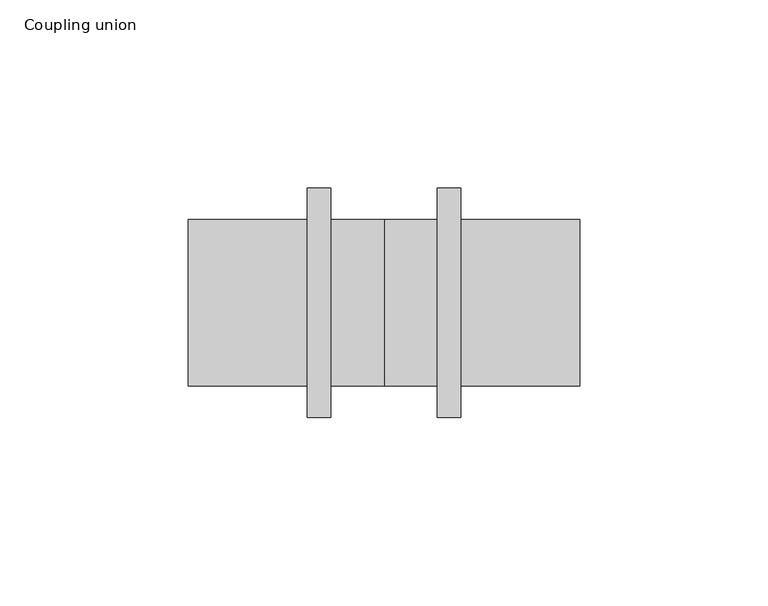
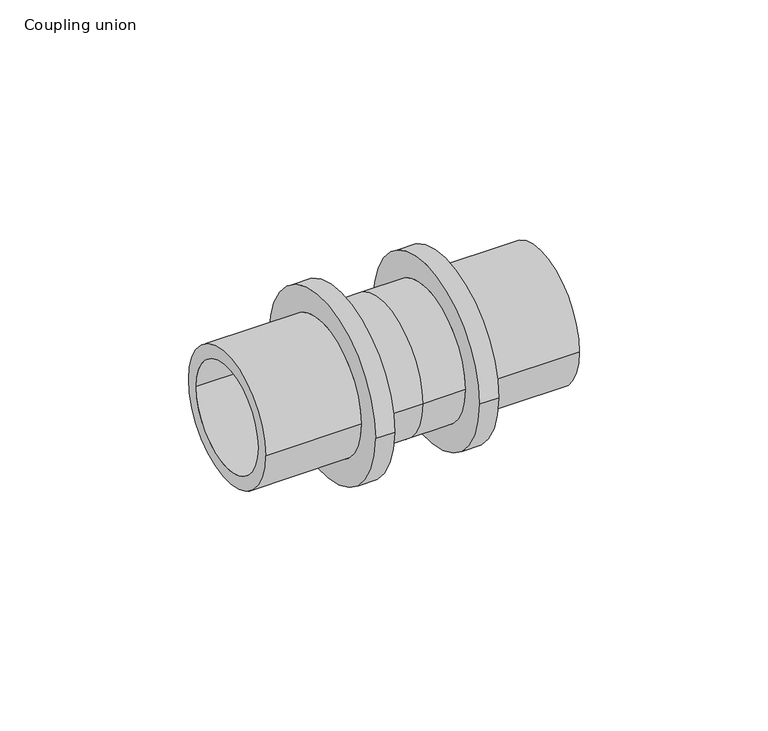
"""IFC4 building model written with IfcOpenShell, lengths in millimetres: pipe fitting geometry, Coupling union : C EQ SDR11 LX."""

import ifcopenshell
import ifcopenshell.guid

model = None  # the IFC model being written
_history = None  # IfcOwnerHistory: only IFC2X3 demands one
_inside = {}  # id of a spatial element -> (the spatial element, [elements in it])
_under = {}  # id of a project, library or spatial element -> (it, [spatial elements below it])
_declared = {}  # id of a project -> (the project, [libraries it declares])
_typed = {}  # id of a type object -> (the type object, [elements of that type])
_made_of = {}  # id of a material, layer set ... -> (it, [elements and type objects made of it])


def new_model(schema):
    """Start an empty IFC model of exactly this schema.

    Asked for "IFC4X3", IfcOpenShell would pick the latest addendum, in which some entities
    have other attributes; the version numbers below select the first issue.
    IFC2X3 requires an IfcOwnerHistory on every rooted entity: one is made here for all.
    """
    global model, _history
    if schema == "IFC4X3":
        model = ifcopenshell.file(schema_version=(4, 3, 0, 0))
    else:
        model = ifcopenshell.file(schema=schema)
    _inside.clear()
    _under.clear()
    _declared.clear()
    _typed.clear()
    _made_of.clear()
    _history = None
    if model.schema == "IFC2X3":
        org = make("IfcOrganization", Name="unknown")
        user = make(
            "IfcPersonAndOrganization",
            ThePerson=make("IfcPerson", FamilyName="unknown"),
            TheOrganization=org,
        )
        app = make(
            "IfcApplication",
            ApplicationDeveloper=org,
            Version="unknown",
            ApplicationFullName="unknown",
            ApplicationIdentifier="unknown",
        )
        _history = make(
            "IfcOwnerHistory",
            OwningUser=user,
            OwningApplication=app,
            ChangeAction="ADDED",
            CreationDate=0,
        )
    return model


def make(cls, **values):
    """One entity of the class cls with the attributes given. An attribute that is None is left unset."""
    return model.create_entity(
        cls, **{name: value for name, value in values.items() if value is not None}
    )


def rooted(cls, **values):
    """An entity with a GlobalId (a new one), such as an element, a storey or a relation."""
    return make(cls, GlobalId=ifcopenshell.guid.new(), OwnerHistory=_history, **values)


def si_unit(unit_type, name, prefix=None):
    """IfcSIUnit, for example si_unit("LENGTHUNIT", "METRE", prefix="MILLI")."""
    return make("IfcSIUnit", UnitType=unit_type, Prefix=prefix, Name=name)


def assignment(units):
    """IfcUnitAssignment: the units of a project."""
    return None if units is None else make("IfcUnitAssignment", Units=units)


def point(xyz):
    """IfcCartesianPoint."""
    return None if xyz is None else make("IfcCartesianPoint", Coordinates=xyz)


def direction(xyz):
    """IfcDirection."""
    return None if xyz is None else make("IfcDirection", DirectionRatios=xyz)


def frame(location, z_axis=None, x_axis=None):
    """IfcAxis2Placement3D, a coordinate frame: its origin and axes. An axis left out is left unset."""
    return make(
        "IfcAxis2Placement3D",
        Location=point(location),
        Axis=direction(z_axis),
        RefDirection=direction(x_axis),
    )


def origin():
    """The frame at (0, 0, 0) with its axes left unset."""
    return frame((0.0, 0.0, 0.0))


def place(relative_to, where):
    """IfcLocalPlacement: puts the frame where relative to a parent placement (None: the world)."""
    return make(
        "IfcLocalPlacement", PlacementRelTo=relative_to, RelativePlacement=where
    )


def context(
    kind, dimensions, precision=None, world=None, true_north=None, identifier=None
):
    """IfcGeometricRepresentationContext, for example the 3D "Model" context."""
    return make(
        "IfcGeometricRepresentationContext",
        ContextIdentifier=identifier,
        ContextType=kind,
        CoordinateSpaceDimension=dimensions,
        Precision=precision,
        WorldCoordinateSystem=world,
        TrueNorth=true_north,
    )


def project(units=None, contexts=None):
    """IfcProject with its units and contexts."""
    return rooted(
        "IfcProject",
        Name="project",
        RepresentationContexts=contexts,
        UnitsInContext=assignment(units),
    )


def spatial(cls, under=None, at=None, **own):
    """A site, building, storey or space (cls), placed at a placement, below another one or the project."""
    s = rooted(cls, ObjectPlacement=at, **own)
    if under is not None:
        _under.setdefault(under.id(), (under, []))[1].append(s)
    return s


def polyline(points):
    """IfcPolyline through the points."""
    return make("IfcPolyline", Points=[point(p) for p in points])


def circle_curve(where, radius):
    """IfcCircle in the frame where."""
    return make("IfcCircle", Position=where, Radius=radius)


def shape(context_of_items, identifier, shape_type, items):
    """IfcShapeRepresentation: the items that make up one representation, for example the "Body"."""
    return make(
        "IfcShapeRepresentation",
        ContextOfItems=context_of_items,
        RepresentationIdentifier=identifier,
        RepresentationType=shape_type,
        Items=items,
    )


def source(mapping_origin, context_of_items, identifier, shape_type, items):
    """IfcRepresentationMap: a shape defined once, which mapped items show again and again."""
    return make(
        "IfcRepresentationMap",
        MappingOrigin=mapping_origin,
        MappedRepresentation=shape(context_of_items, identifier, shape_type, items),
    )


def transform(
    local_origin,
    x_axis=None,
    y_axis=None,
    z_axis=None,
    scale=None,
    scale2=None,
    scale3=None,
    uniform=True,
):
    """IfcCartesianTransformationOperator3D, or its non-uniform kind. x_axis, y_axis, z_axis: its Axis1, 2, 3."""
    if uniform:
        return make(
            "IfcCartesianTransformationOperator3D",
            Axis1=direction(x_axis),
            Axis2=direction(y_axis),
            LocalOrigin=point(local_origin),
            Scale=scale,
            Axis3=direction(z_axis),
        )
    return make(
        "IfcCartesianTransformationOperator3DnonUniform",
        Axis1=direction(x_axis),
        Axis2=direction(y_axis),
        LocalOrigin=point(local_origin),
        Scale=scale,
        Axis3=direction(z_axis),
        Scale2=scale2,
        Scale3=scale3,
    )


def mapped(mapping_source, mapping_target):
    """IfcMappedItem: shows the shape of a source again, moved by a transform."""
    return make(
        "IfcMappedItem", MappingSource=mapping_source, MappingTarget=mapping_target
    )


def made_of(thing, what):
    """Note that an element or type object is made of a material, layer set ...; save() writes the relation."""
    if what is not None:
        _made_of.setdefault(what.id(), (what, []))[1].append(thing)
    return thing


def element(
    cls,
    number,
    at=None,
    inside=None,
    cuts=None,
    type_object=None,
    material=None,
    context=None,
    identifier="Body",
    shape_type=None,
    held_by="IfcProductDefinitionShape",
    body=None,
    shapes=None,
    **own,
):
    """One element of the class cls, such as IfcWall. Its Tag is "e" and its number.

    at: its placement. inside: the storey or other place that contains it. cuts: it is an
    opening in that element (IfcRelVoidsElement). A single representation is given by context,
    identifier, shape_type and body (its items); several are given by shapes. held_by: the class
    of the entity that holds the representations. save() writes the other relations.
    """
    e = rooted(cls, Tag="e%d" % number, ObjectPlacement=at, **own)
    if body is not None:
        shapes = [shape(context, identifier, shape_type, body)]
    if shapes is not None:
        e.Representation = make(held_by, Representations=shapes)
    if inside is not None:
        _inside.setdefault(inside.id(), (inside, []))[1].append(e)
    if cuts is not None:
        rooted(
            "IfcRelVoidsElement", RelatingBuildingElement=cuts, RelatedOpeningElement=e
        )
    if type_object is not None:
        _typed.setdefault(type_object.id(), (type_object, []))[1].append(e)
    return made_of(e, material)


def aggregate(whole, parts):
    """IfcRelAggregates: a whole, such as a stair, and the parts it consists of."""
    return rooted("IfcRelAggregates", RelatingObject=whole, RelatedObjects=parts)


def save(model, path):
    """Write the relations noted so far, then the file.

    IfcRelAggregates (storeys below a building ...), IfcRelContainedInSpatialStructure (elements
    in a storey), IfcRelDefinesByType, IfcRelAssociatesMaterial and IfcRelDeclares: one each for
    every whole, place, type object, material and project.
    """
    for whole, parts in _under.values():
        aggregate(whole, parts)
    for where, things in _inside.values():
        rooted(
            "IfcRelContainedInSpatialStructure",
            RelatedElements=things,
            RelatingStructure=where,
        )
    for kind, things in _typed.values():
        rooted("IfcRelDefinesByType", RelatedObjects=things, RelatingType=kind)
    for what, things in _made_of.values():
        rooted("IfcRelAssociatesMaterial", RelatedObjects=things, RelatingMaterial=what)
    for by, libraries in _declared.values():
        rooted("IfcRelDeclares", RelatingContext=by, RelatedDefinitions=libraries)
    model.write(path)


def plane_surface(at):
    """IfcPlane: the flat surface through the origin of the frame at, square to its z axis."""
    return make("IfcPlane", Position=at)


def cylinder_surface(at, radius):
    """IfcCylindricalSurface: all points at the distance radius from the z axis of the frame at."""
    return make("IfcCylindricalSurface", Position=at, Radius=radius)


def revolved_surface(curve, axis_point, axis_direction):
    """IfcSurfaceOfRevolution: the curve turned about the line through axis_point along axis_direction."""
    return make(
        "IfcSurfaceOfRevolution",
        SweptCurve=make("IfcArbitraryOpenProfileDef", ProfileType="CURVE", Curve=curve),
        AxisPosition=make("IfcAxis1Placement", Location=point(axis_point), Axis=direction(axis_direction)),
    )


def advanced_brep(points, edges, surfaces, faces):
    """IfcAdvancedBrep: a solid bounded by faces that lie on surfaces and meet in shared edges.

    An edge is (start, end): straight between two places in points (the first is 0);
    or (start, end, curve); or (start, end, curve, False) where it runs against its curve.
    A face is (place in surfaces, loops), or (place, loops, False) where it looks against
    its surface's normal. A loop lists edges by number (the first is 1), with a minus sign
    where the edge is run from its end to its start. The first loop is the outer one.
    """
    corners = [point(p) for p in points]
    vertices = [make("IfcVertexPoint", VertexGeometry=c) for c in corners]
    made = []
    for start, end, *more in edges:
        made.append(
            make(
                "IfcEdgeCurve",
                EdgeStart=vertices[start],
                EdgeEnd=vertices[end],
                EdgeGeometry=more[0] if more else make("IfcPolyline", Points=[corners[start], corners[end]]),
                SameSense=more[1] if len(more) > 1 else True,
            )
        )
    hull = []
    for where, loops, *sense in faces:
        bounds = []
        for j, loop in enumerate(loops):
            ring = [make("IfcOrientedEdge", EdgeElement=made[abs(k) - 1], Orientation=k > 0) for k in loop]
            bounds.append(
                make(
                    "IfcFaceOuterBound" if j == 0 else "IfcFaceBound",
                    Bound=make("IfcEdgeLoop", EdgeList=ring),
                    Orientation=True,
                )
            )
        hull.append(make("IfcAdvancedFace", Bounds=bounds, FaceSurface=surfaces[where], SameSense=sense[0] if sense else True))
    return make("IfcAdvancedBrep", Outer=make("IfcClosedShell", CfsFaces=hull))


def coupling_union_cbcc5ad7(model_context):
    return source(origin(), model_context, "Body", "AdvancedBrep", [
        advanced_brep(
        [(20.4, 30.5, 0.0), (20.4, -30.5, 0.0), (14.1, -30.5, 0.0), (14.1, 30.5, 0.0), (52.0, 22.15, 0.0), (52.0, -22.15, 0.0), (20.4, -22.15, 0.0), (20.4, 22.15, 0.0), (-52.0, 17.75, 0.0), (-52.0, -17.75, 0.0), (52.0, -17.75, 0.0), (52.0, 17.75, 0.0), (-20.4, 22.15, 0.0), (-20.4, -22.15, 0.0), (-52.0, -22.15, 0.0), (-52.0, 22.15, 0.0), (-14.1, 30.5, 0.0), (-14.1, -30.5, 0.0), (-20.4, -30.5, 0.0), (-20.4, 30.5, 0.0), (0.0, 22.15, 0.0), (0.0, -22.15, 0.0), (-14.1, -22.15, 0.0), (-14.1, 22.15, 0.0), (14.1, 22.15, 0.0), (14.1, -22.15, 0.0)],
        [
            (0, 1, circle_curve(frame((20.4, 0.0, 0.0), z_axis=(-1.0, 0.0, 0.0), x_axis=(0.0, -1.0, 0.0)), 30.5)),
            (1, 2),
            (2, 3, circle_curve(frame((14.1, 0.0, 0.0), z_axis=(1.0, 0.0, 0.0), x_axis=(0.0, -1.0, 0.0)), 30.5)),
            (3, 0),
            (4, 5, circle_curve(frame((52.0, 0.0, 0.0), z_axis=(-1.0, 0.0, 0.0), x_axis=(0.0, -1.0, 0.0)), 22.15)),
            (5, 6),
            (6, 7, circle_curve(frame((20.4, 0.0, 0.0), z_axis=(1.0, 0.0, 0.0), x_axis=(0.0, -1.0, 0.0)), 22.15)),
            (7, 4),
            (8, 9, circle_curve(frame((-52.0, 0.0, 0.0), z_axis=(-1.0, 0.0, 0.0), x_axis=(0.0, -1.0, 0.0)), 17.75)),
            (9, 10),
            (10, 11, circle_curve(frame((52.0, 0.0, 0.0), z_axis=(1.0, 0.0, 0.0), x_axis=(0.0, -1.0, 0.0)), 17.75)),
            (11, 8),
            (12, 13, circle_curve(frame((-20.4, 0.0, 0.0), z_axis=(-1.0, 0.0, 0.0), x_axis=(0.0, -1.0, 0.0)), 22.15)),
            (13, 14),
            (14, 15, circle_curve(frame((-52.0, 0.0, 0.0), z_axis=(1.0, 0.0, 0.0), x_axis=(0.0, -1.0, 0.0)), 22.15)),
            (15, 12),
            (16, 17, circle_curve(frame((-14.1, 0.0, 0.0), z_axis=(-1.0, 0.0, 0.0), x_axis=(0.0, -1.0, 0.0)), 30.5)),
            (17, 18),
            (18, 19, circle_curve(frame((-20.4, 0.0, 0.0), z_axis=(1.0, 0.0, 0.0), x_axis=(0.0, -1.0, 0.0)), 30.5)),
            (19, 16),
            (20, 21, circle_curve(frame((0.0, 0.0, 0.0), z_axis=(-1.0, 0.0, 0.0), x_axis=(0.0, -1.0, 0.0)), 22.15)),
            (21, 22),
            (22, 23, circle_curve(frame((-14.1, 0.0, 0.0), z_axis=(1.0, 0.0, 0.0), x_axis=(0.0, -1.0, 0.0)), 22.15)),
            (23, 20),
            (24, 25, circle_curve(frame((14.1, 0.0, 0.0), z_axis=(-1.0, 0.0, 0.0), x_axis=(0.0, -1.0, 0.0)), 22.15)),
            (25, 21),
            (20, 24),
            (1, 0, circle_curve(frame((20.4, 0.0, 0.0), z_axis=(-1.0, 0.0, 0.0), x_axis=(0.0, 1.0, 0.0)), 30.5)),
            (3, 2, circle_curve(frame((14.1, 0.0, 0.0), z_axis=(1.0, 0.0, 0.0), x_axis=(0.0, 1.0, 0.0)), 30.5)),
            (6, 7, circle_curve(frame((20.4, 0.0, 0.0), z_axis=(-1.0, 0.0, 0.0), x_axis=(0.0, 1.0, 0.0)), 22.15)),
            (5, 4, circle_curve(frame((52.0, 0.0, 0.0), z_axis=(-1.0, 0.0, 0.0), x_axis=(0.0, 1.0, 0.0)), 22.15)),
            (10, 11, circle_curve(frame((52.0, 0.0, 0.0), z_axis=(-1.0, 0.0, 0.0), x_axis=(0.0, 1.0, 0.0)), 17.75)),
            (9, 8, circle_curve(frame((-52.0, 0.0, 0.0), z_axis=(-1.0, 0.0, 0.0), x_axis=(0.0, 1.0, 0.0)), 17.75)),
            (14, 15, circle_curve(frame((-52.0, 0.0, 0.0), z_axis=(-1.0, 0.0, 0.0), x_axis=(0.0, 1.0, 0.0)), 22.15)),
            (13, 12, circle_curve(frame((-20.4, 0.0, 0.0), z_axis=(-1.0, 0.0, 0.0), x_axis=(0.0, 1.0, 0.0)), 22.15)),
            (18, 19, circle_curve(frame((-20.4, 0.0, 0.0), z_axis=(-1.0, 0.0, 0.0), x_axis=(0.0, 1.0, 0.0)), 30.5)),
            (17, 16, circle_curve(frame((-14.1, 0.0, 0.0), z_axis=(-1.0, 0.0, 0.0), x_axis=(0.0, 1.0, 0.0)), 30.5)),
            (22, 23, circle_curve(frame((-14.1, 0.0, 0.0), z_axis=(-1.0, 0.0, 0.0), x_axis=(0.0, 1.0, 0.0)), 22.15)),
            (21, 20, circle_curve(frame((0.0, 0.0, 0.0), z_axis=(-1.0, 0.0, 0.0), x_axis=(0.0, 1.0, 0.0)), 22.15)),
            (25, 24, circle_curve(frame((14.1, 0.0, 0.0), z_axis=(-1.0, 0.0, 0.0), x_axis=(0.0, 1.0, 0.0)), 22.15)),
        ],
        [
            cylinder_surface(frame((0.0, 0.0, 0.0), z_axis=(1.0, 0.0, 0.0), x_axis=(0.0, -1.0, 0.0)), 30.5),
            cylinder_surface(frame((0.0, 0.0, 0.0), z_axis=(1.0, 0.0, 0.0), x_axis=(0.0, -1.0, 0.0)), 22.15),
            revolved_surface(polyline([(52.0, -17.75, 0.0), (-52.0, -17.75, 0.0)]), (0.0, 0.0, 0.0), (1.0, 0.0, 0.0)),
            cylinder_surface(frame((0.0, 0.0, 0.0), z_axis=(1.0, 0.0, 0.0), x_axis=(0.0, 1.0, 0.0)), 30.5),
            plane_surface(frame((20.4, 0.0, 0.0), z_axis=(1.0, 0.0, 0.0), x_axis=(0.0, 1.0, 0.0))),
            cylinder_surface(frame((0.0, 0.0, 0.0), z_axis=(1.0, 0.0, 0.0), x_axis=(0.0, 1.0, 0.0)), 22.15),
            plane_surface(frame((52.0, 0.0, 0.0), z_axis=(1.0, 0.0, 0.0), x_axis=(0.0, 1.0, 0.0))),
            revolved_surface(polyline([(52.0, 17.75, 0.0), (-52.0, 17.75, 0.0)]), (0.0, 0.0, 0.0), (1.0, 0.0, 0.0)),
            plane_surface(frame((-52.0, 0.0, 0.0), z_axis=(-1.0, 0.0, 0.0), x_axis=(0.0, 1.0, 0.0))),
            plane_surface(frame((-20.4, 0.0, 0.0), z_axis=(-1.0, 0.0, 0.0), x_axis=(0.0, 1.0, 0.0))),
            plane_surface(frame((-14.1, 0.0, 0.0), z_axis=(1.0, 0.0, 0.0), x_axis=(0.0, 1.0, 0.0))),
            plane_surface(frame((14.1, 0.0, 0.0), z_axis=(-1.0, 0.0, 0.0), x_axis=(0.0, 1.0, 0.0))),
        ],
        [
            (0, [[1, 2, 3, 4]]),
            (1, [[5, 6, 7, 8]]),
            (2, [[9, 10, 11, 12]]),
            (1, [[13, 14, 15, 16]]),
            (0, [[17, 18, 19, 20]]),
            (1, [[21, 22, 23, 24]]),
            (1, [[25, 26, -21, 27]]),
            (3, [[28, -4, 29, -2]]),
            (4, [[-28, -1], [30, -7]]),
            (5, [[31, -8, -30, -6]]),
            (6, [[-31, -5], [32, -11]]),
            (7, [[33, -12, -32, -10]]),
            (8, [[34, -15], [-33, -9]]),
            (5, [[35, -16, -34, -14]]),
            (9, [[36, -19], [-35, -13]]),
            (3, [[37, -20, -36, -18]]),
            (10, [[-37, -17], [38, -23]]),
            (5, [[39, -24, -38, -22]]),
            (5, [[40, -27, -39, -26]]),
            (11, [[-29, -3], [-40, -25]]),
        ],
    ),
    ])


if __name__ == "__main__":
    model = new_model("IFC4")
    model_context = context("Model", 3, world=origin())
    ifc_project = project(units=[si_unit("LENGTHUNIT", "METRE", prefix="MILLI")], contexts=[model_context])
    site = spatial("IfcSite", under=ifc_project)
    building = spatial("IfcBuilding", under=site)
    placement = place(None, origin())
    coupling_union_shape = coupling_union_cbcc5ad7(model_context)
    element("IfcPipeFitting", 1, ObjectType="Coupling union : C EQ SDR11 LX", at=placement, inside=building, context=model_context, shape_type="MappedRepresentation", body=[
        mapped(coupling_union_shape, transform((0.0, 0.0, 0.0), x_axis=(1.0, 0.0, 0.0), y_axis=(0.0, 1.0, 0.0), z_axis=(0.0, 0.0, 1.0))),
    ])
    save(model, "model.ifc")
